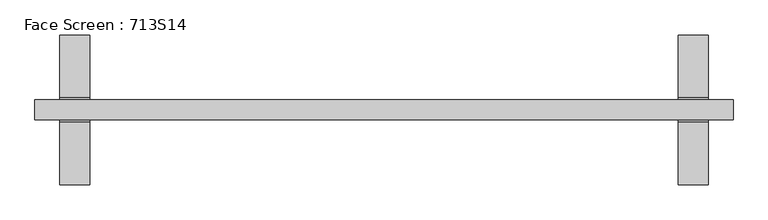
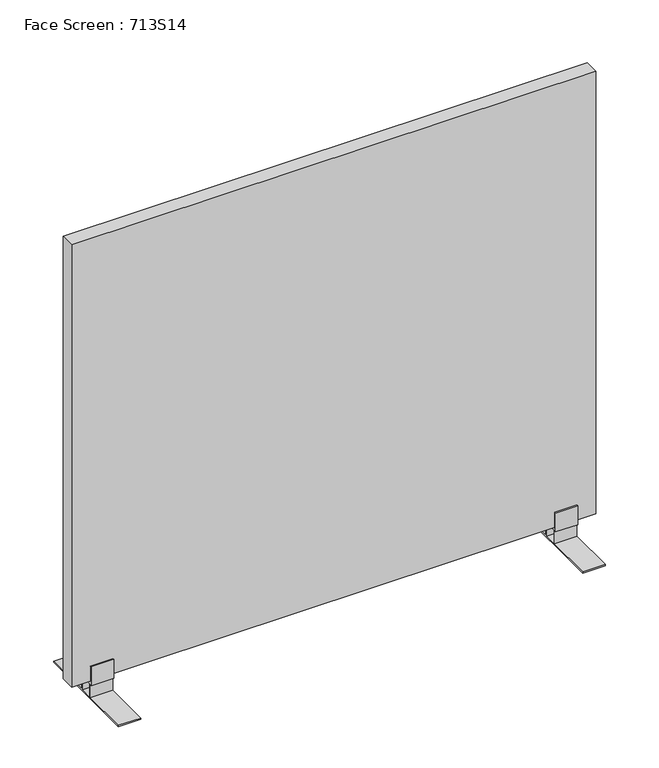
"""IFC4 building model written with IfcOpenShell, lengths in millimetres: furniture geometry, Face Screen : 713S14."""

from ifc_helpers import new_model, si_unit, frame, origin, place, context, project, spatial, polyline, outline, extrude, source, transform, mapped, element, save


def face_screen_713s14_c8a57ed8(model_context):
    return source(origin(), model_context, "Body", "SweptSolid", [
        extrude(outline(polyline([(-20.0, 4.0), (-20.0, 40.0), (-24.0, 40.0), (-24.0000047, 93.0166638), (-20.0, 93.0166638), (-20.0, 50.0955899), (20.0, 50.0955899), (20.0, 93.0166638), (24.0, 93.0166638), (23.9999953, 40.0), (20.0, 40.0), (20.0, 4.0), (149.9935713, 4.0), (149.9935713, 0.0), (-150.0064287, 0.0), (-150.0064287, 4.0), (-20.0, 4.0)]), holes=[polyline([(16.0, 40.0), (-16.0, 40.0), (-16.0, 4.0), (16.0, 4.0), (16.0, 40.0)])]), frame((590.0, 0.0, 0.0), z_axis=(1.0, 0.0, 0.0), x_axis=(0.0, 1.0, 0.0)), (0.0, 0.0, 1.0), 60.0),
        extrude(outline(polyline([(20.0, 4.0), (150.0064287, 4.0), (150.0064287, 0.0), (-149.9935713, 0.0), (-149.9935713, 4.0), (-20.0, 4.0), (-20.0, 40.0), (-23.9999953, 40.0), (-24.0, 93.0166638), (-20.0, 93.0166638), (-20.0, 50.0955899), (20.0, 50.0955899), (20.0, 93.0166638), (24.0000047, 93.0166638), (24.0, 40.0), (20.0, 40.0), (20.0, 4.0)]), holes=[polyline([(-16.0, 40.0), (-16.0, 4.0), (16.0, 4.0), (16.0, 40.0), (-16.0, 40.0)])]), frame((-650.0, 0.0, 0.0), z_axis=(1.0, 0.0, 0.0), x_axis=(0.0, 1.0, 0.0)), (0.0, 0.0, 1.0), 60.0),
        extrude(outline(polyline([(700.0, 20.0), (700.0, -20.0), (-700.0, -20.0), (-700.0, 20.0), (700.0, 20.0)])), frame((0.0, 0.0, 50.0), z_axis=(0.0, 0.0, 1.0), x_axis=(1.0, 0.0, 0.0)), (0.0, 0.0, 1.0), 1250.0),
    ])


if __name__ == "__main__":
    model = new_model("IFC4")
    model_context = context("Model", 3, world=origin())
    ifc_project = project(units=[si_unit("LENGTHUNIT", "METRE", prefix="MILLI")], contexts=[model_context])
    site = spatial("IfcSite", under=ifc_project)
    building = spatial("IfcBuilding", under=site)
    placement = place(None, origin())
    face_screen_713s14_shape = face_screen_713s14_c8a57ed8(model_context)
    element("IfcFurniture", 1, ObjectType="Face Screen : 713S14", at=placement, inside=building, context=model_context, shape_type="MappedRepresentation", body=[
        mapped(face_screen_713s14_shape, transform((0.0, 0.0, 0.0), x_axis=(1.0, 0.0, 0.0), y_axis=(0.0, 1.0, 0.0), z_axis=(0.0, 0.0, 1.0))),
    ])
    save(model, "model.ifc")
